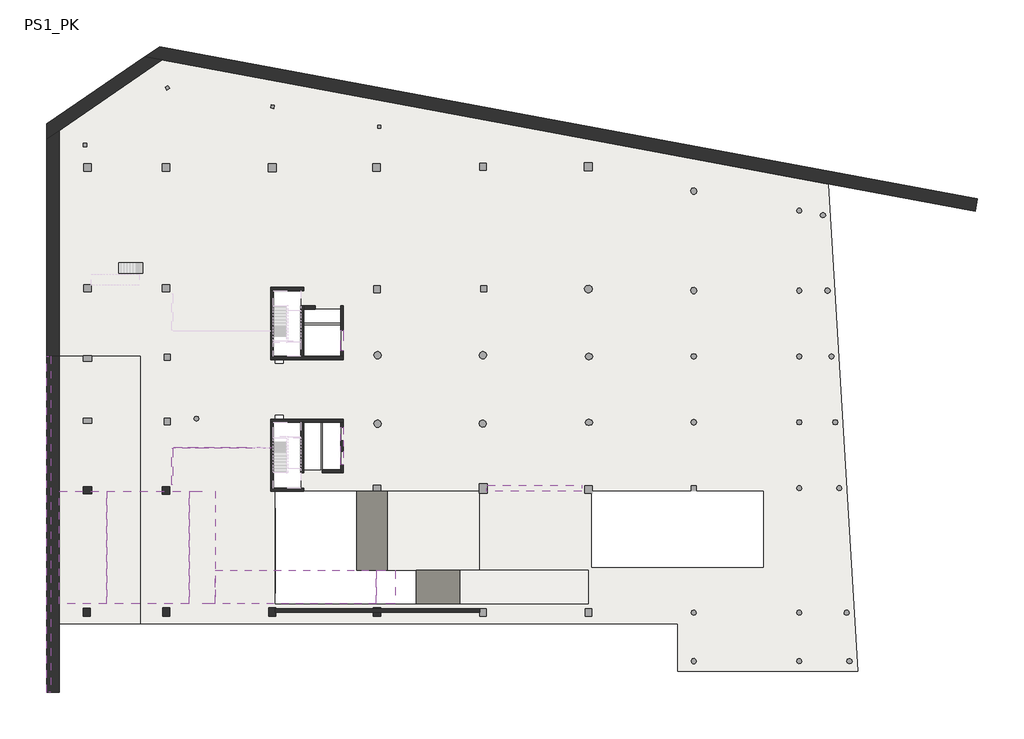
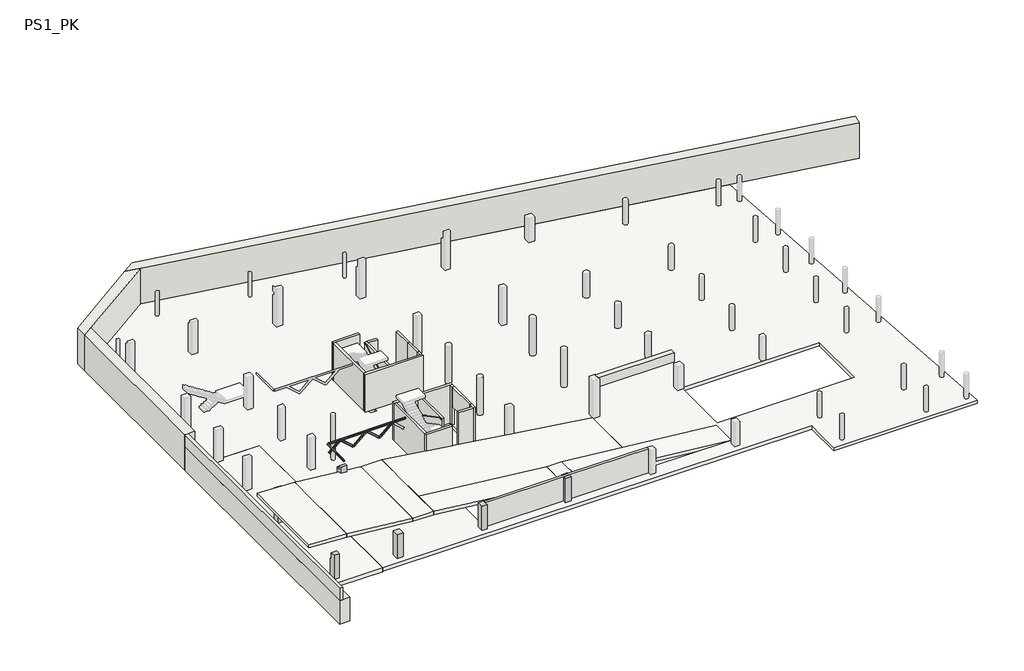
# One storey, part 1 of 5: 24 walls, 10 beams, 9 slabs, 6 columns.
"""IFC4 building model written with IfcOpenShell, lengths in millimetres."""

import ifcopenshell
import ifcopenshell.guid

model = None  # the IFC model being written
_history = None  # IfcOwnerHistory: only IFC2X3 demands one
_inside = {}  # id of a spatial element -> (the spatial element, [elements in it])
_under = {}  # id of a project, library or spatial element -> (it, [spatial elements below it])
_declared = {}  # id of a project -> (the project, [libraries it declares])
_typed = {}  # id of a type object -> (the type object, [elements of that type])
_made_of = {}  # id of a material, layer set ... -> (it, [elements and type objects made of it])


def new_model(schema):
    """Start an empty IFC model of exactly this schema.

    Asked for "IFC4X3", IfcOpenShell would pick the latest addendum, in which some entities
    have other attributes; the version numbers below select the first issue.
    IFC2X3 requires an IfcOwnerHistory on every rooted entity: one is made here for all.
    """
    global model, _history
    if schema == "IFC4X3":
        model = ifcopenshell.file(schema_version=(4, 3, 0, 0))
    else:
        model = ifcopenshell.file(schema=schema)
    _inside.clear()
    _under.clear()
    _declared.clear()
    _typed.clear()
    _made_of.clear()
    _history = None
    if model.schema == "IFC2X3":
        org = make("IfcOrganization", Name="unknown")
        user = make(
            "IfcPersonAndOrganization",
            ThePerson=make("IfcPerson", FamilyName="unknown"),
            TheOrganization=org,
        )
        app = make(
            "IfcApplication",
            ApplicationDeveloper=org,
            Version="unknown",
            ApplicationFullName="unknown",
            ApplicationIdentifier="unknown",
        )
        _history = make(
            "IfcOwnerHistory",
            OwningUser=user,
            OwningApplication=app,
            ChangeAction="ADDED",
            CreationDate=0,
        )
    return model


def make(cls, **values):
    """One entity of the class cls with the attributes given. An attribute that is None is left unset."""
    return model.create_entity(
        cls, **{name: value for name, value in values.items() if value is not None}
    )


def rooted(cls, **values):
    """An entity with a GlobalId (a new one), such as an element, a storey or a relation."""
    return make(cls, GlobalId=ifcopenshell.guid.new(), OwnerHistory=_history, **values)


def si_unit(unit_type, name, prefix=None):
    """IfcSIUnit, for example si_unit("LENGTHUNIT", "METRE", prefix="MILLI")."""
    return make("IfcSIUnit", UnitType=unit_type, Prefix=prefix, Name=name)


def assignment(units):
    """IfcUnitAssignment: the units of a project."""
    return None if units is None else make("IfcUnitAssignment", Units=units)


def point(xyz):
    """IfcCartesianPoint."""
    return None if xyz is None else make("IfcCartesianPoint", Coordinates=xyz)


def direction(xyz):
    """IfcDirection."""
    return None if xyz is None else make("IfcDirection", DirectionRatios=xyz)


def frame(location, z_axis=None, x_axis=None):
    """IfcAxis2Placement3D, a coordinate frame: its origin and axes. An axis left out is left unset."""
    return make(
        "IfcAxis2Placement3D",
        Location=point(location),
        Axis=direction(z_axis),
        RefDirection=direction(x_axis),
    )


def frame_2d(location, x_axis=None):
    """IfcAxis2Placement2D, a coordinate frame in the plane: its origin and x axis."""
    return make(
        "IfcAxis2Placement2D", Location=point(location), RefDirection=direction(x_axis)
    )


def origin():
    """The frame at (0, 0, 0) with its axes left unset."""
    return frame((0.0, 0.0, 0.0))


def place(relative_to, where):
    """IfcLocalPlacement: puts the frame where relative to a parent placement (None: the world)."""
    return make(
        "IfcLocalPlacement", PlacementRelTo=relative_to, RelativePlacement=where
    )


def context(
    kind, dimensions, precision=None, world=None, true_north=None, identifier=None
):
    """IfcGeometricRepresentationContext, for example the 3D "Model" context."""
    return make(
        "IfcGeometricRepresentationContext",
        ContextIdentifier=identifier,
        ContextType=kind,
        CoordinateSpaceDimension=dimensions,
        Precision=precision,
        WorldCoordinateSystem=world,
        TrueNorth=true_north,
    )


def project(units=None, contexts=None):
    """IfcProject with its units and contexts."""
    return rooted(
        "IfcProject",
        Name="project",
        RepresentationContexts=contexts,
        UnitsInContext=assignment(units),
    )


def spatial(cls, under=None, at=None, **own):
    """A site, building, storey or space (cls), placed at a placement, below another one or the project."""
    s = rooted(cls, ObjectPlacement=at, **own)
    if under is not None:
        _under.setdefault(under.id(), (under, []))[1].append(s)
    return s


def polyline(points):
    """IfcPolyline through the points."""
    return make("IfcPolyline", Points=[point(p) for p in points])


def circle_curve(where, radius):
    """IfcCircle in the frame where."""
    return make("IfcCircle", Position=where, Radius=radius)


def trimmed(basis, trim1, trim2, sense, master):
    """IfcTrimmedCurve: the piece of a basis curve between two trims."""
    return make(
        "IfcTrimmedCurve",
        BasisCurve=basis,
        Trim1=trim1,
        Trim2=trim2,
        SenseAgreement=sense,
        MasterRepresentation=master,
    )


def segment(curve, same_sense, transition):
    """IfcCompositeCurveSegment."""
    return make(
        "IfcCompositeCurveSegment",
        Transition=transition,
        SameSense=same_sense,
        ParentCurve=curve,
    )


def composite_curve(segments, self_intersect=None):
    """IfcCompositeCurve: segments joined end to end."""
    return make("IfcCompositeCurve", Segments=segments, SelfIntersect=self_intersect)


def outline(outer, holes=None, kind="AREA"):
    """IfcArbitraryClosedProfileDef: a profile drawn as a closed curve; with holes, ...WithVoids."""
    if holes is None:
        return make("IfcArbitraryClosedProfileDef", ProfileType=kind, OuterCurve=outer)
    return make(
        "IfcArbitraryProfileDefWithVoids",
        ProfileType=kind,
        OuterCurve=outer,
        InnerCurves=holes,
    )


def extrude(swept, where, along, depth):
    """IfcExtrudedAreaSolid: the profile swept, set in the frame where, extruded along a direction by depth."""
    return make(
        "IfcExtrudedAreaSolid",
        SweptArea=swept,
        Position=where,
        ExtrudedDirection=direction(along),
        Depth=depth,
    )


def faces_of(points, faces, orient=None, outer=None):
    """IfcFace entities. A face is a list of loops; a loop is a list of indices into points, from 0.

    orient and outer hold one flag for each loop. By default every Orientation is true, the
    first loop of a face is its IfcFaceOuterBound and the others are IfcFaceBound.
    """
    made = []
    for i, loops in enumerate(faces):
        bounds = []
        for j, loop in enumerate(loops):
            is_outer = j == 0 if outer is None else outer[i][j]
            bounds.append(
                make(
                    "IfcFaceOuterBound" if is_outer else "IfcFaceBound",
                    Bound=make("IfcPolyLoop", Polygon=[points[k] for k in loop]),
                    Orientation=True if orient is None else orient[i][j],
                )
            )
        made.append(make("IfcFace", Bounds=bounds))
    return made


def faceted_brep(points, faces, orient=None, outer=None, voids=None):
    """IfcFacetedBrep: a solid bounded by flat faces; with voids (closed shells), ...WithVoids."""
    shared = [point(p) for p in points]
    hull = make("IfcClosedShell", CfsFaces=faces_of(shared, faces, orient, outer))
    if voids is None:
        return make("IfcFacetedBrep", Outer=hull)
    return make(
        "IfcFacetedBrepWithVoids",
        Outer=hull,
        Voids=[
            make(cls, CfsFaces=faces_of(shared, fs, o, b)) for cls, fs, o, b in voids
        ],
    )


def shape(context_of_items, identifier, shape_type, items):
    """IfcShapeRepresentation: the items that make up one representation, for example the "Body"."""
    return make(
        "IfcShapeRepresentation",
        ContextOfItems=context_of_items,
        RepresentationIdentifier=identifier,
        RepresentationType=shape_type,
        Items=items,
    )


def source(mapping_origin, context_of_items, identifier, shape_type, items):
    """IfcRepresentationMap: a shape defined once, which mapped items show again and again."""
    return make(
        "IfcRepresentationMap",
        MappingOrigin=mapping_origin,
        MappedRepresentation=shape(context_of_items, identifier, shape_type, items),
    )


def transform(
    local_origin,
    x_axis=None,
    y_axis=None,
    z_axis=None,
    scale=None,
    scale2=None,
    scale3=None,
    uniform=True,
):
    """IfcCartesianTransformationOperator3D, or its non-uniform kind. x_axis, y_axis, z_axis: its Axis1, 2, 3."""
    if uniform:
        return make(
            "IfcCartesianTransformationOperator3D",
            Axis1=direction(x_axis),
            Axis2=direction(y_axis),
            LocalOrigin=point(local_origin),
            Scale=scale,
            Axis3=direction(z_axis),
        )
    return make(
        "IfcCartesianTransformationOperator3DnonUniform",
        Axis1=direction(x_axis),
        Axis2=direction(y_axis),
        LocalOrigin=point(local_origin),
        Scale=scale,
        Axis3=direction(z_axis),
        Scale2=scale2,
        Scale3=scale3,
    )


def mapped(mapping_source, mapping_target):
    """IfcMappedItem: shows the shape of a source again, moved by a transform."""
    return make(
        "IfcMappedItem", MappingSource=mapping_source, MappingTarget=mapping_target
    )


def made_of(thing, what):
    """Note that an element or type object is made of a material, layer set ...; save() writes the relation."""
    if what is not None:
        _made_of.setdefault(what.id(), (what, []))[1].append(thing)
    return thing


def element(
    cls,
    number,
    at=None,
    inside=None,
    cuts=None,
    type_object=None,
    material=None,
    context=None,
    identifier="Body",
    shape_type=None,
    held_by="IfcProductDefinitionShape",
    body=None,
    shapes=None,
    **own,
):
    """One element of the class cls, such as IfcWall. Its Tag is "e" and its number.

    at: its placement. inside: the storey or other place that contains it. cuts: it is an
    opening in that element (IfcRelVoidsElement). A single representation is given by context,
    identifier, shape_type and body (its items); several are given by shapes. held_by: the class
    of the entity that holds the representations. save() writes the other relations.
    """
    e = rooted(cls, Tag="e%d" % number, ObjectPlacement=at, **own)
    if body is not None:
        shapes = [shape(context, identifier, shape_type, body)]
    if shapes is not None:
        e.Representation = make(held_by, Representations=shapes)
    if inside is not None:
        _inside.setdefault(inside.id(), (inside, []))[1].append(e)
    if cuts is not None:
        rooted(
            "IfcRelVoidsElement", RelatingBuildingElement=cuts, RelatedOpeningElement=e
        )
    if type_object is not None:
        _typed.setdefault(type_object.id(), (type_object, []))[1].append(e)
    return made_of(e, material)


def aggregate(whole, parts):
    """IfcRelAggregates: a whole, such as a stair, and the parts it consists of."""
    return rooted("IfcRelAggregates", RelatingObject=whole, RelatedObjects=parts)


def save(model, path):
    """Write the relations noted so far, then the file.

    IfcRelAggregates (storeys below a building ...), IfcRelContainedInSpatialStructure (elements
    in a storey), IfcRelDefinesByType, IfcRelAssociatesMaterial and IfcRelDeclares: one each for
    every whole, place, type object, material and project.
    """
    for whole, parts in _under.values():
        aggregate(whole, parts)
    for where, things in _inside.values():
        rooted(
            "IfcRelContainedInSpatialStructure",
            RelatedElements=things,
            RelatingStructure=where,
        )
    for kind, things in _typed.values():
        rooted("IfcRelDefinesByType", RelatedObjects=things, RelatingType=kind)
    for what, things in _made_of.values():
        rooted("IfcRelAssociatesMaterial", RelatedObjects=things, RelatingMaterial=what)
    for by, libraries in _declared.values():
        rooted("IfcRelDeclares", RelatingContext=by, RelatedDefinitions=libraries)
    model.write(path)


def ub_universal_beams_ipe_160x82_7bbaf760(model_context):
    return source(origin(), model_context, "Body", "SweptSolid", [
        extrude(outline(composite_curve([segment(polyline([(-41.0, -69.8), (-11.9, -69.8)]), True, "CONTINUOUS"), segment(trimmed(circle_curve(frame_2d((-11.9, -60.9)), 8.9), [point((-11.9, -69.8))], [point((-3.0, -60.9))], True, "CARTESIAN"), True, "CONTINUOUS"), segment(polyline([(-3.0, -60.9), (-3.0, 60.9)]), True, "CONTINUOUS"), segment(trimmed(circle_curve(frame_2d((-11.9, 60.9)), 8.9), [point((-3.0, 60.9))], [point((-11.9, 69.8))], True, "CARTESIAN"), True, "CONTINUOUS"), segment(polyline([(-11.9, 69.8), (-41.0, 69.8), (-41.0, 80.0), (41.0, 80.0), (41.0, 69.8), (11.9, 69.8)]), True, "CONTINUOUS"), segment(trimmed(circle_curve(frame_2d((11.9, 60.9)), 8.9), [point((11.9, 69.8))], [point((3.0, 60.9))], True, "CARTESIAN"), True, "CONTINUOUS"), segment(polyline([(3.0, 60.9), (3.0, -60.9)]), True, "CONTINUOUS"), segment(trimmed(circle_curve(frame_2d((11.9, -60.9)), 8.9), [point((3.0, -60.9))], [point((11.9, -69.8))], True, "CARTESIAN"), True, "CONTINUOUS"), segment(polyline([(11.9, -69.8), (41.0, -69.8), (41.0, -80.0), (-41.0, -80.0), (-41.0, -69.8)]), True, "CONTINUOUS")], self_intersect=False)), frame((-1742.9, 0.0, 0.0), z_axis=(1.0, 0.0, 0.0), x_axis=(0.0, 1.0, 0.0)), (0.0, 0.0, 1.0), 3462.2),
    ])


def upn200x75_1c1293da(model_context):
    return source(origin(), model_context, "Body", "SweptSolid", [
        extrude(outline(composite_curve([segment(polyline([(-10.9, 100.0), (64.1, 100.0), (64.1, 99.0253247)]), True, "CONTINUOUS"), segment(trimmed(circle_curve(frame_2d((60.15, 99.0253247)), 3.95), [point((64.1, 99.0253247))], [point((60.7993773, 95.1290689))], False, "CARTESIAN"), True, "CONTINUOUS"), segment(polyline([(60.7993773, 95.1290689), (0.2512455, 85.0376935)]), True, "CONTINUOUS"), segment(trimmed(circle_curve(frame_2d((1.55, 77.2451819)), 7.9), [point((0.2512455, 85.0376935))], [point((-6.35, 77.2451819))], True, "CARTESIAN"), True, "CONTINUOUS"), segment(polyline([(-6.35, 77.2451819), (-6.35, -77.2451819)]), True, "CONTINUOUS"), segment(trimmed(circle_curve(frame_2d((1.55, -77.2451819)), 7.9), [point((-6.35, -77.2451819))], [point((0.2512455, -85.0376935))], True, "CARTESIAN"), True, "CONTINUOUS"), segment(polyline([(0.2512455, -85.0376935), (60.7993773, -95.1290689)]), True, "CONTINUOUS"), segment(trimmed(circle_curve(frame_2d((60.15, -99.0253247)), 3.95), [point((60.7993773, -95.1290689))], [point((64.1, -99.0253247))], False, "CARTESIAN"), True, "CONTINUOUS"), segment(polyline([(64.1, -99.0253247), (64.1, -100.0), (-10.9, -100.0), (-10.9, 100.0)]), True, "CONTINUOUS")], self_intersect=False)), frame((-1028.55, 0.0, 0.0), z_axis=(1.0, 0.0, 0.0), x_axis=(0.0, 1.0, 0.0)), (0.0, 0.0, 1.0), 2057.1),
    ])


def upn200x75_5a3f8982(model_context):
    return source(origin(), model_context, "Body", "SweptSolid", [
        extrude(outline(composite_curve([segment(polyline([(10.9, 100.0), (10.9, -100.0), (-64.1, -100.0), (-64.1, -99.0253247)]), True, "CONTINUOUS"), segment(trimmed(circle_curve(frame_2d((-60.15, -99.0253247)), 3.95), [point((-64.1, -99.0253247))], [point((-60.7993773, -95.1290689))], False, "CARTESIAN"), True, "CONTINUOUS"), segment(polyline([(-60.7993773, -95.1290689), (-0.2512455, -85.0376935)]), True, "CONTINUOUS"), segment(trimmed(circle_curve(frame_2d((-1.55, -77.2451819)), 7.9), [point((-0.2512455, -85.0376935))], [point((6.35, -77.2451819))], True, "CARTESIAN"), True, "CONTINUOUS"), segment(polyline([(6.35, -77.2451819), (6.35, 77.2451819)]), True, "CONTINUOUS"), segment(trimmed(circle_curve(frame_2d((-1.55, 77.2451819)), 7.9), [point((6.35, 77.2451819))], [point((-0.2512455, 85.0376935))], True, "CARTESIAN"), True, "CONTINUOUS"), segment(polyline([(-0.2512455, 85.0376935), (-60.7993773, 95.1290689)]), True, "CONTINUOUS"), segment(trimmed(circle_curve(frame_2d((-60.15, 99.0253247)), 3.95), [point((-60.7993773, 95.1290689))], [point((-64.1, 99.0253247))], False, "CARTESIAN"), True, "CONTINUOUS"), segment(polyline([(-64.1, 99.0253247), (-64.1, 100.0), (10.9, 100.0)]), True, "CONTINUOUS")], self_intersect=False)), frame((-1028.55, 0.0, 0.0), z_axis=(1.0, 0.0, 0.0), x_axis=(0.0, 1.0, 0.0)), (0.0, 0.0, 1.0), 2057.1),
    ])


def upn200x75_c14da5dc(model_context):
    return source(origin(), model_context, "Body", "SweptSolid", [
        extrude(outline(composite_curve([segment(polyline([(-10.9, 100.0), (64.1, 100.0), (64.1, 99.0253247)]), True, "CONTINUOUS"), segment(trimmed(circle_curve(frame_2d((60.15, 99.0253247)), 3.95), [point((64.1, 99.0253247))], [point((60.7993773, 95.1290689))], False, "CARTESIAN"), True, "CONTINUOUS"), segment(polyline([(60.7993773, 95.1290689), (0.2512455, 85.0376935)]), True, "CONTINUOUS"), segment(trimmed(circle_curve(frame_2d((1.55, 77.2451819)), 7.9), [point((0.2512455, 85.0376935))], [point((-6.35, 77.2451819))], True, "CARTESIAN"), True, "CONTINUOUS"), segment(polyline([(-6.35, 77.2451819), (-6.35, -77.2451819)]), True, "CONTINUOUS"), segment(trimmed(circle_curve(frame_2d((1.55, -77.2451819)), 7.9), [point((-6.35, -77.2451819))], [point((0.2512455, -85.0376935))], True, "CARTESIAN"), True, "CONTINUOUS"), segment(polyline([(0.2512455, -85.0376935), (60.7993773, -95.1290689)]), True, "CONTINUOUS"), segment(trimmed(circle_curve(frame_2d((60.15, -99.0253247)), 3.95), [point((60.7993773, -95.1290689))], [point((64.1, -99.0253247))], False, "CARTESIAN"), True, "CONTINUOUS"), segment(polyline([(64.1, -99.0253247), (64.1, -100.0), (-10.9, -100.0), (-10.9, 100.0)]), True, "CONTINUOUS")], self_intersect=False)), frame((-1009.55, 0.0, 0.0), z_axis=(1.0, 0.0, 0.0), x_axis=(0.0, 1.0, 0.0)), (0.0, 0.0, 1.0), 1793.1),
    ])


def upn200x75_1ffd0ced(model_context):
    return source(origin(), model_context, "Body", "SweptSolid", [
        extrude(outline(composite_curve([segment(polyline([(10.9, 100.0), (10.9, -100.0), (-64.1, -100.0), (-64.1, -99.0253247)]), True, "CONTINUOUS"), segment(trimmed(circle_curve(frame_2d((-60.15, -99.0253247)), 3.95), [point((-64.1, -99.0253247))], [point((-60.7993773, -95.1290689))], False, "CARTESIAN"), True, "CONTINUOUS"), segment(polyline([(-60.7993773, -95.1290689), (-0.2512455, -85.0376935)]), True, "CONTINUOUS"), segment(trimmed(circle_curve(frame_2d((-1.55, -77.2451819)), 7.9), [point((-0.2512455, -85.0376935))], [point((6.35, -77.2451819))], True, "CARTESIAN"), True, "CONTINUOUS"), segment(polyline([(6.35, -77.2451819), (6.35, 77.2451819)]), True, "CONTINUOUS"), segment(trimmed(circle_curve(frame_2d((-1.55, 77.2451819)), 7.9), [point((6.35, 77.2451819))], [point((-0.2512455, 85.0376935))], True, "CARTESIAN"), True, "CONTINUOUS"), segment(polyline([(-0.2512455, 85.0376935), (-60.7993773, 95.1290689)]), True, "CONTINUOUS"), segment(trimmed(circle_curve(frame_2d((-60.15, 99.0253247)), 3.95), [point((-60.7993773, 95.1290689))], [point((-64.1, 99.0253247))], False, "CARTESIAN"), True, "CONTINUOUS"), segment(polyline([(-64.1, 99.0253247), (-64.1, 100.0), (10.9, 100.0)]), True, "CONTINUOUS")], self_intersect=False)), frame((-4549.35, 0.0, 0.0), z_axis=(1.0, 0.0, 0.0), x_axis=(0.0, 1.0, 0.0)), (0.0, 0.0, 1.0), 9187.2),
    ])


model = new_model("IFC4")

# Units and contexts
model_context = context("Model", 3, world=origin())
ifc_project = project(units=[si_unit("LENGTHUNIT", "METRE", prefix="MILLI")], contexts=[model_context])

# Site, building, storey
site = spatial("IfcSite", under=ifc_project)
building = spatial("IfcBuilding", under=site)
storey = spatial("IfcBuildingStorey", under=building, Name="PS1_PK", Elevation=1850.0)

# Beams
placement = place(None, origin())
element("IfcBeam", 1, ObjectType="M_Concrete-Rectangular Beam : 600 x 800mm", at=placement, inside=storey, context=model_context, shape_type="SweptSolid", body=[
    extrude(outline(polyline([(-31415.3182582, -6785.0987504), (-30815.3182582, -6785.0995089), (-30815.3284346, -14835.0991411), (-31415.3284346, -14835.0983826), (-31415.3182582, -6785.0987504)])), frame((0.0, 0.0, 1050.0), z_axis=(0.0, 0.0, 1.0), x_axis=(1.0, 0.0, 0.0)), (0.0, 0.0, 1.0), 350.0),
])
element("IfcBeam", 2, ObjectType="M_Concrete-Rectangular Beam : 600 x 800mm", at=placement, inside=storey, context=model_context, shape_type="SweptSolid", body=[
    extrude(outline(polyline([(-23815.3033971, -6785.0987504), (-23215.3033971, -6785.0995089), (-23215.3135735, -14835.0991411), (-23815.3135735, -14835.0983826), (-23815.3033971, -6785.0987504)])), frame((0.0, 0.0, 1050.0), z_axis=(0.0, 0.0, 1.0), x_axis=(1.0, 0.0, 0.0)), (0.0, 0.0, 1.0), 400.0),
])
element("IfcBeam", 3, ObjectType="M_Concrete-Rectangular Beam : 600 x 800mm", at=placement, inside=storey, context=model_context, shape_type="SweptSolid", body=[
    extrude(outline(polyline([(-13815.2879142, -6785.0987504), (-13215.2879142, -6785.0995089), (-13215.2980906, -14835.0991411), (-13815.2980906, -14835.0983826), (-13815.2879142, -6785.0987504)])), frame((0.0, 0.0, 1050.0), z_axis=(0.0, 0.0, 1.0), x_axis=(1.0, 0.0, 0.0)), (0.0, 0.0, 1.0), 400.0),
])
ub_universal_beams_ipe_160x82_shape = ub_universal_beams_ipe_160x82_7bbaf760(model_context)
element("IfcBeam", 4, ObjectType="UB-Universal Beams : IPE 160x82", at=placement, inside=storey, context=model_context, shape_type="MappedRepresentation", body=[
    mapped(ub_universal_beams_ipe_160x82_shape, transform((-22991.1860553, -2817.6366893, 6250.0), x_axis=(0.0, 1.0, 0.0), y_axis=(-1.0, 0.0, 0.0), z_axis=(0.0, 0.0, 1.0))),
])
upn200x75_shape = upn200x75_1c1293da(model_context)
element("IfcBeam", 5, ObjectType="M_MC Shapes : UPN200x75", at=placement, inside=storey, context=model_context, shape_type="MappedRepresentation", body=[
    mapped(upn200x75_shape, transform((-16015.1068918, -1021.4872814, 5556.0464738), x_axis=(-0.7536675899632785, -9.524179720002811e-09, -0.6572557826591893), y_axis=(1.2637109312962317e-08, -1.0, 0.0), z_axis=(-0.6572557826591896, -8.305813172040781e-09, 0.7536675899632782))),
])
element("IfcBeam", 6, ObjectType="M_MC Shapes : UPN200x75", at=placement, inside=storey, context=model_context, shape_type="MappedRepresentation", body=[
    mapped(upn200x75_shape, transform((-19115.9662663, -1021.4872814, 5556.0464738), x_axis=(-0.753667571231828, -9.518466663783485e-09, -0.657255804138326), y_axis=(1.2629529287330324e-08, -1.0, 0.0), z_axis=(-0.6572558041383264, -8.300831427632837e-09, 0.7536675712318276))),
])
upn200x75_2_shape = upn200x75_5a3f8982(model_context)
element("IfcBeam", 7, ObjectType="M_MC Shapes : UPN200x75", at=placement, inside=storey, context=model_context, shape_type="MappedRepresentation", body=[
    mapped(upn200x75_2_shape, transform((-17565.5365103, -1021.4872813, 5556.0464738), x_axis=(0.7536676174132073, -9.379180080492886e-09, -0.6572557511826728), y_axis=(1.2444716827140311e-08, 1.0, 0.0), z_axis=(0.6572557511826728, -8.179361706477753e-09, 0.7536676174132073))),
])
element("IfcBeam", 8, ObjectType="M_MC Shapes : UPN200x75", at=placement, inside=storey, context=model_context, shape_type="MappedRepresentation", body=[
    mapped(upn200x75_2_shape, transform((-20666.3958102, -1021.4872813, 5556.0464738), x_axis=(0.753667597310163, -9.373056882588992e-09, -0.6572557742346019), y_axis=(1.2436592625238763e-08, 0.9999999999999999, 0.0), z_axis=(0.6572557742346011, -8.174022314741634e-09, 0.7536675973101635))),
])
upn200x75_3_shape = upn200x75_c14da5dc(model_context)
element("IfcBeam", 9, ObjectType="M_MC Shapes : UPN200x75", at=placement, inside=storey, context=model_context, shape_type="MappedRepresentation", body=[
    mapped(upn200x75_3_shape, transform((-22191.3959532, -1021.4872826, 5556.0464738), x_axis=(-0.7426831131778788, -1.1791235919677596e-08, -0.6696430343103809), y_axis=(1.5876536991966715e-08, -1.0, 0.0), z_axis=(-0.6696430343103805, -1.0631612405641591e-08, 0.7426831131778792))),
])
upn200x75_4_shape = upn200x75_1ffd0ced(model_context)
element("IfcBeam", 10, ObjectType="M_MC Shapes : UPN200x75", at=placement, inside=storey, context=model_context, shape_type="MappedRepresentation", body=[
    mapped(upn200x75_4_shape, transform((-18278.2394234, -1021.487191, 6230.0), x_axis=(0.9999999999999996, -3.175673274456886e-08, 0.0), y_axis=(3.175673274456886e-08, 0.9999999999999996, 0.0), z_axis=(0.0, 0.0, 1.0))),
])

# Columns
element("IfcColumn", 11, ObjectType="Concrete-Rectangular-Column : Pilar_Rectangular-Formigo-700x800", at=placement, inside=storey, context=model_context, shape_type="SweptSolid", body=[
    extrude(outline(polyline([(-23215.3184118, -16235.1033928), (-23215.3184105, -17035.1033928), (-23915.3184105, -17035.1033939), (-23915.3184118, -16235.1033939), (-23215.3184118, -16235.1033928)])), frame((0.0, 0.0, 1850.0), z_axis=(0.0, 0.0, 1.0), x_axis=(1.0, 0.0, 0.0)), (0.0, 0.0, 1.0), 3030.0),
])
element("IfcColumn", 12, ObjectType="Concrete-Rectangular-Column : Pilar_Rectangular-Formigo-650x800", at=placement, inside=storey, context=model_context, shape_type="Brep", body=[
    faceted_brep([(-13190.293055, -17035.1033987, 1850.0), (-13840.293055, -17035.1033975, 1850.0), (-13840.2930535, -16235.1033975, 1850.0), (-13190.2930535, -16235.1033987, 1850.0), (-13190.2930537, -16334.9031429, 1850.0), (-13215.2930536, -16334.9031429, 1850.0), (-13215.2930536, -16634.9031429, 1850.0), (-13190.2930542, -16634.9031429, 1850.0), (-13190.293055, -17035.1033987, 4880.0), (-13190.2930542, -16634.903198, 4880.0), (-13840.293055, -17035.1033975, 4880.0), (-13840.2930535, -16235.1033975, 4880.0), (-13190.2930535, -16235.1033987, 4880.0), (-13215.2930536, -16634.9031429, 4880.0), (-13215.2930536, -16334.9031429, 4880.0), (-13190.2930537, -16334.9031429, 4880.0)], [[[0, 1, 2, 3, 4, 5, 6, 7]], [[8, 0, 7, 9]], [[1, 0, 8, 10]], [[2, 1, 10, 11]], [[3, 2, 11, 12]], [[10, 8, 9, 13, 14, 15, 12, 11]], [[6, 13, 9, 7]], [[5, 14, 13, 6]], [[14, 5, 4, 15]], [[3, 12, 15, 4]]]),
])
element("IfcColumn", 13, ObjectType="Concrete-Rectangular-Column : Pilar_Rectangular-Formigo-650x800", at=placement, inside=storey, context=model_context, shape_type="Brep", body=[
    faceted_brep([(-31415.2980588, -4760.5873414, 1850.0), (-30615.2980588, -4760.5873414, 1850.0), (-30615.2980588, -5410.5873414, 1850.0), (-31415.2980588, -5410.5873414, 1850.0), (-31415.2980588, -4760.5873414, 5930.0), (-30615.2980588, -4760.5873414, 5930.0), (-30615.2980588, -4885.1039321, 5930.0), (-30615.2980588, -5185.1039321, 5930.0), (-30615.2980588, -5410.5873414, 5930.0), (-31415.2980588, -5410.5873414, 5930.0)], [[[0, 1, 2, 3]], [[4, 5, 1, 0]], [[5, 6, 7, 8, 2, 1]], [[8, 9, 3, 2]], [[9, 4, 0, 3]], [[4, 9, 8, 7, 6, 5]]]),
])
element("IfcColumn", 14, ObjectType="Concrete-Rectangular-Column : Pilar_Rectangular-Formigo-700x700", at=placement, inside=storey, context=model_context, shape_type="Brep", body=[
    faceted_brep([(-23941.1835957, -5460.5873525, 1850.0), (-23941.1835957, -4760.5873525, 1850.0), (-23241.1835957, -4760.5873525, 1850.0), (-23241.1835957, -5460.5873525, 1850.0), (-23941.1835957, -5460.5873525, 6330.0), (-23941.1835957, -5185.0959668, 6330.0), (-23941.1835957, -5185.0959668, 5930.0), (-23941.1835957, -4885.1039321, 5930.0), (-23941.1835957, -4760.5873525, 5930.0), (-23241.1835957, -4760.5873525, 5930.0), (-23241.1835957, -5185.0959668, 5930.0), (-23241.1835957, -5185.0959668, 6330.0), (-23241.1835957, -5460.5873525, 6330.0)], [[[0, 1, 2, 3]], [[1, 0, 4, 5, 6, 7, 8]], [[2, 1, 8, 9]], [[3, 2, 9, 10, 11, 12]], [[0, 3, 12, 4]], [[4, 12, 11, 5]], [[6, 10, 9, 8, 7]], [[10, 6, 5, 11]]]),
])
element("IfcColumn", 15, ObjectType="Concrete-Rectangular-Column : Pilar_Rectangular-Formigo-700x800", at=placement, inside=storey, context=model_context, shape_type="SweptSolid", body=[
    extrude(outline(polyline([(-3915.1540247, -16235.1056095), (-3215.1540247, -16235.1056095), (-3215.1540247, -16334.9031429), (-3915.1540247, -16334.9031429), (-3915.1540247, -16235.1056095)])), frame((0.0, 0.0, 1850.0), z_axis=(0.0, 0.0, 1.0), x_axis=(1.0, 0.0, 0.0)), (0.0, 0.0, 1.0), 3030.0),
    extrude(outline(polyline([(-3215.1540247, -17035.1056095), (-3915.1540247, -17035.1056095), (-3915.1540247, -16634.9031429), (-3215.1540247, -16634.9031429), (-3215.1540247, -17035.1056095)])), frame((0.0, 0.0, 1850.0), z_axis=(0.0, 0.0, 1.0), x_axis=(1.0, 0.0, 0.0)), (0.0, 0.0, 1.0), 3030.0),
])
element("IfcColumn", 16, ObjectType="Concrete-Rectangular-Column : Pilar_Rectangular-Formigo-650x750", at=placement, inside=storey, context=model_context, shape_type="Brep", body=[
    faceted_brep([(-30765.3184165, -16285.1033928, 1850.0), (-30765.3184165, -17035.1033928, 1850.0), (-31415.3184165, -17035.1033928, 1850.0), (-31415.3184165, -16285.1033928, 1850.0), (-30765.3184165, -16285.1033928, 4050.0), (-30765.3184165, -16435.5440663, 4050.0), (-30765.3184165, -16435.5440663, 4880.0), (-30765.3184165, -17035.1033928, 4880.0), (-31415.3184165, -17035.1033928, 4880.0), (-31415.3184165, -16435.557227, 4880.0), (-31415.3184165, -16435.557227, 4050.0), (-31415.3184165, -16285.1033928, 4050.0)], [[[0, 1, 2, 3]], [[1, 0, 4, 5, 6, 7]], [[2, 1, 7, 8]], [[3, 2, 8, 9, 10, 11]], [[0, 3, 11, 4]], [[8, 7, 6, 9]], [[5, 10, 9, 6]], [[10, 5, 4, 11]]]),
])

# Slabs
element("IfcSlab", 17, ObjectType="Forjat_Llosa-Formigo-400", at=placement, inside=storey, context=model_context, shape_type="Brep", body=[
    faceted_brep([(-23930.3270635, 35743.361696, 1450.0), (39264.3843441, 23967.0549217, 1450.0), (42020.1412186, -22244.215902, 1450.0), (24944.4016946, -22244.1958056, 1450.0), (24944.4019396, -17733.5176819, 1450.0), (-26046.9477827, -17732.2667871, 1450.0), (-26046.9153188, 7614.8960687, 1450.0), (-30615.2955819, 7614.8960687, 1450.0), (-31415.2955819, 7614.8960687, 1450.0), (-33717.5141758, 7614.8960687, 1450.0), (-33717.5141758, 29038.6998052, 1450.0), (16784.7044979, -5185.1011395, 1450.0), (16784.7044979, -12385.1011394, 1450.0), (33084.6783563, -12385.1011394, 1450.0), (33084.6783563, -5185.1011395, 1450.0), (-13215.2930923, -5185.1039323, 1450.0), (-13215.2930974, -15835.1021903, 1450.0), (6132.5357165, -15835.1021976, 1450.0), (6732.5357165, -15835.1021978, 1450.0), (16134.6783437, -15835.1022014, 1450.0), (16134.6784935, -12685.103435, 1450.0), (6732.5396986, -12685.103435, 1450.0), (6132.5369795, -12685.103435, 1450.0), (6132.5369844, -5185.1039323, 1450.0), (-10790.2146087, 13864.8960677, 1450.0), (-13390.3216429, 13864.8960677, 1450.0), (-13390.3216429, 7614.8960673, 1450.0), (-10790.2146087, 7614.8960673, 1450.0), (-7015.3216444, 10594.8839421, 1450.0), (-10540.2146087, 10594.8839421, 1450.0), (-10540.2146087, 7614.8960673, 1450.0), (-7015.3216444, 7614.8960673, 1450.0), (-7015.3215889, 12114.8934277, 1450.0), (-10540.2146087, 12114.8934277, 1450.0), (-10540.2146087, 10794.8973525, 1450.0), (-7015.3215889, 10794.8973525, 1450.0), (-10790.2146087, -4885.1039312, 1450.0), (-10790.2146087, 1364.8960692, 1450.0), (-13390.3216429, 1364.8960692, 1450.0), (-13390.3216429, -4885.1039312, 1450.0), (-8915.3273673, -3135.1012772, 1450.0), (-8915.3273673, 1364.8960692, 1450.0), (-10540.2146087, 1364.8960692, 1450.0), (-10540.2146087, -3135.1012772, 1450.0), (-7015.32737, -3135.1012912, 1450.0), (-7015.32737, 1364.8960692, 1450.0), (-8715.3273692, 1364.8960692, 1450.0), (-8715.3273692, -3135.1012912, 1450.0), (-12465.3183669, 2014.8972615, 1450.0), (-13215.3183695, 2014.8972615, 1450.0), (-13215.3183695, 1664.8972602, 1450.0), (-12465.3183669, 1664.8972602, 1450.0), (-12465.3183689, 7314.889142, 1450.0), (-13215.3183665, 7314.889142, 1450.0), (-13215.3183665, 6964.889144, 1450.0), (-12465.3183689, 6964.889144, 1450.0), (39264.3843441, 23967.0549217, 1850.0), (-23930.3270635, 35743.361696, 1850.0), (-33717.5141758, 29038.6998052, 1850.0), (-33717.5141758, 7614.8960687, 1850.0), (-26046.9153188, 7614.8960687, 1850.0), (-26046.9477827, -17732.2667871, 1850.0), (24944.4019396, -17733.5176819, 1850.0), (24944.4016946, -22244.1958056, 1850.0), (42020.1412186, -22244.215902, 1850.0), (16784.7044979, -12385.1011394, 1850.0), (16784.7044979, -5185.1011395, 1850.0), (33084.6783563, -5185.1011395, 1850.0), (33084.6783563, -12385.1011394, 1850.0), (-13215.2930974, -15835.1021903, 1850.0), (-13215.2930923, -5185.1039323, 1850.0), (-3915.3209111, -5185.1039323, 1850.0), (-3215.3209111, -5185.1039323, 1850.0), (6132.5369844, -5185.1039323, 1850.0), (6132.5369795, -12685.103435, 1850.0), (6732.5396986, -12685.103435, 1850.0), (16134.6784935, -12685.103435, 1850.0), (16134.6783437, -15835.1022014, 1850.0), (6732.5357165, -15835.1021978, 1850.0), (6132.5357165, -15835.1021976, 1850.0), (-13390.3216429, 13864.8960677, 1850.0), (-10790.2146087, 13864.8960677, 1850.0), (-10790.2146087, 7614.8960673, 1850.0), (-13390.3216429, 7614.8960673, 1850.0), (-10540.2146087, 10594.8839421, 1850.0), (-7015.3216444, 10594.8839421, 1850.0), (-7015.3216444, 7614.8960673, 1850.0), (-10540.2146087, 7614.8960673, 1850.0), (-10540.2146087, 12114.8934277, 1850.0), (-7015.3215889, 12114.8934277, 1850.0), (-7015.3215889, 10794.8973525, 1850.0), (-10540.2146087, 10794.8973525, 1850.0), (-10790.2146087, 1364.8960692, 1850.0), (-10790.2146087, -4885.1039312, 1850.0), (-13390.3216429, -4885.1039312, 1850.0), (-13390.3216429, 1364.8960692, 1850.0), (-8915.3273673, 1364.8960692, 1850.0), (-8915.3273673, -3135.1012772, 1850.0), (-10540.2146087, -3135.1012772, 1850.0), (-10540.2146087, 1364.8960692, 1850.0), (-7015.32737, 1364.8960692, 1850.0), (-7015.32737, -3135.1012912, 1850.0), (-8715.3273692, -3135.1012912, 1850.0), (-8715.3273692, 1364.8960692, 1850.0), (-13215.3183695, 2014.8972615, 1850.0), (-12465.3183669, 2014.8972615, 1850.0), (-12465.3183669, 1664.8972602, 1850.0), (-13215.3183695, 1664.8972602, 1850.0), (-13215.3183665, 7314.889142, 1850.0), (-12465.3183689, 7314.889142, 1850.0), (-12465.3183689, 6964.889144, 1850.0), (-13215.3183665, 6964.889144, 1850.0)], [[[0, 1, 2, 3, 4, 5, 6, 7, 8, 9, 10], [11, 12, 13, 14], [15, 16, 17, 18, 19, 20, 21, 22, 23], [24, 25, 26, 27], [28, 29, 30, 31], [32, 33, 34, 35], [36, 37, 38, 39], [40, 41, 42, 43], [44, 45, 46, 47], [48, 49, 50, 51], [52, 53, 54, 55]], [[56, 57, 58, 59, 60, 61, 62, 63, 64], [65, 66, 67, 68], [69, 70, 71, 72, 73, 74, 75, 76, 77, 78, 79], [80, 81, 82, 83], [84, 85, 86, 87], [88, 89, 90, 91], [92, 93, 94, 95], [96, 97, 98, 99], [100, 101, 102, 103], [104, 105, 106, 107], [108, 109, 110, 111]], [[1, 0, 57, 56]], [[2, 1, 56, 64]], [[3, 2, 64, 63]], [[4, 3, 63, 62]], [[5, 4, 62, 61]], [[10, 9, 59, 58]], [[0, 10, 58, 57]], [[12, 11, 66, 65]], [[13, 12, 65, 68]], [[14, 13, 68, 67]], [[11, 14, 67, 66]], [[16, 15, 70, 69]], [[19, 18, 17, 16, 69, 79, 78, 77]], [[23, 22, 74, 73]], [[15, 23, 73, 72, 71, 70]], [[6, 5, 61, 60]], [[9, 8, 7, 6, 60, 59]], [[24, 81, 80, 25]], [[25, 80, 83, 26]], [[26, 83, 82, 27]], [[81, 24, 27, 82]], [[28, 85, 84, 29]], [[29, 84, 87, 30]], [[30, 87, 86, 31]], [[85, 28, 31, 86]], [[32, 89, 88, 33]], [[33, 88, 91, 34]], [[34, 91, 90, 35]], [[89, 32, 35, 90]], [[36, 93, 92, 37]], [[37, 92, 95, 38]], [[38, 95, 94, 39]], [[93, 36, 39, 94]], [[40, 97, 96, 41]], [[41, 96, 99, 42]], [[42, 99, 98, 43]], [[97, 40, 43, 98]], [[44, 101, 100, 45]], [[45, 100, 103, 46]], [[46, 103, 102, 47]], [[101, 44, 47, 102]], [[48, 105, 104, 49]], [[49, 104, 107, 50]], [[50, 107, 106, 51]], [[105, 48, 51, 106]], [[52, 109, 108, 53]], [[53, 108, 111, 54]], [[54, 111, 110, 55]], [[109, 52, 55, 110]], [[20, 19, 77, 76]], [[22, 21, 20, 76, 75, 74]]]),
])
element("IfcSlab", 18, ObjectType="Forjat_Llosa-Formigo-400", at=placement, inside=storey, context=model_context, shape_type="Brep", body=[
    faceted_brep([(6132.5369795, -12685.1034498, 1446.1953926), (-18894.2962732, -12685.103435, 4906.1953924), (-18894.2962709, -5185.1039323, 4906.1953921), (6132.5369844, -5185.1039323, 1446.1953919), (6132.5369795, -12685.1034498, 1850.0000004), (6132.5369844, -5185.1039323, 1849.9999997), (-18894.2962709, -5185.1039323, 5309.9999999), (-18894.2962732, -12685.103435, 5310.0000002)], [[[0, 1, 2, 3]], [[4, 5, 6, 7]], [[1, 0, 4, 7]], [[2, 1, 7, 6]], [[3, 2, 6, 5]], [[0, 3, 5, 4]]]),
])
element("IfcSlab", 19, ObjectType="Forjat_Llosa-Formigo-400", at=placement, inside=storey, context=model_context, shape_type="SweptSolid", body=[
    extrude(outline(polyline([(-18894.2962746, -5185.1039323), (-18894.2962746, -15835.1021856), (-21387.0087546, -15835.1021856), (-21387.0087546, -5185.1039323), (-18894.2962746, -5185.1039323)])), frame((0.0, 0.0, 4910.0), z_axis=(0.0, 0.0, 1.0), x_axis=(1.0, 0.0, 0.0)), (0.0, 0.0, 1.0), 400.0),
])
element("IfcSlab", 20, ObjectType="Forjat_Llosa-Formigo-400", at=placement, inside=storey, context=model_context, shape_type="SweptSolid", body=[
    extrude(outline(polyline([(5691.1240513, -29218.2097308), (4908.0049752, -21387.0189694), (5310.0, -21387.0189694), (6093.1190761, -29218.2097308), (5691.1240513, -29218.2097308)])), frame((0.0, -15835.1021872, 0.0), z_axis=(0.0, 1.0, 0.0), x_axis=(0.0, 0.0, 1.0)), (0.0, 0.0, 1.0), 10649.998255),
])
element("IfcSlab", 21, ObjectType="Forjat_Llosa-Formigo-400", at=placement, inside=storey, context=model_context, shape_type="Brep", body=[
    faceted_brep([(-29217.9801348, -5185.1033979, 5692.4508837), (-29217.7771821, -15835.5127329, 5692.440194), (-33717.5141758, -15835.6038397, 5929.4455389), (-33717.5141758, -5185.103396, 5929.4455389), (-29217.9801348, -5185.1033979, 6093.0053449), (-33717.5141758, -5185.103396, 6330.0), (-33717.5141758, -15835.6038397, 6330.0), (-29217.7771821, -15835.5127329, 6092.9946551)], [[[0, 1, 2, 3]], [[4, 5, 6, 7]], [[1, 0, 4, 7]], [[2, 1, 7, 6]], [[3, 2, 6, 5]], [[0, 3, 5, 4]]]),
])
element("IfcSlab", 22, ObjectType="Forjat_Llosa-Formigo-450", at=placement, inside=storey, context=model_context, shape_type="Brep", body=[
    faceted_brep([(-33717.5141758, -17732.0786165, 1400.0), (-33717.5141758, 7614.8960687, 1400.0), (-31415.2955819, 7614.8960687, 1400.0), (-30615.2955819, 7614.8960687, 1400.0), (-26046.9153188, 7614.8960687, 1400.0), (-26046.9477827, -17732.2667871, 1400.0), (-33717.5141758, -17732.0786165, 1850.0), (-26046.9477827, -17732.2667871, 1850.0), (-26046.9153188, 7614.8960687, 1850.0), (-33717.5141758, 7614.8960687, 1850.0), (-26046.9477827, -17732.2667871, 1450.0), (-33717.5141758, 7614.8960687, 1450.0), (-26046.9153188, 7614.8960687, 1450.0)], [[[0, 1, 2, 3, 4, 5]], [[6, 7, 8, 9]], [[0, 5, 10, 7, 6]], [[1, 0, 6, 9, 11]], [[4, 3, 2, 1, 11, 9, 8, 12]], [[5, 4, 12, 8, 7, 10]]]),
])
element("IfcSlab", 23, ObjectType="Forjat_Llosa-Formigo-400", at=placement, inside=storey, context=model_context, shape_type="SweptSolid", body=[
    extrude(outline(polyline([(-1840.7876105, -12685.103435), (-1840.7876105, -15835.1021946), (-3640.7876105, -15835.1021939), (-3640.7876105, -12685.103435), (-1840.7876105, -12685.103435)])), frame((0.0, 0.0, 3250.0), z_axis=(0.0, 0.0, 1.0), x_axis=(1.0, 0.0, 0.0)), (0.0, 0.0, 1.0), 400.0),
])
element("IfcSlab", 24, ObjectType="Forjat_Llosa-Formigo-400", at=placement, inside=storey, context=model_context, shape_type="Brep", body=[
    faceted_brep([(16484.70689, -15835.1022065, 1448.0750483), (-1840.7876105, -15835.1021957, 3248.0750482), (-1840.7876095, -12685.103435, 3248.0750482), (16484.7068921, -12685.103435, 1448.0750481), (16484.70689, -15835.1022065, 1850.0000001), (16484.7068921, -12685.103435, 1849.9999999), (-1840.7876095, -12685.103435, 3650.0), (-1840.7876105, -15835.1021957, 3650.0000001)], [[[0, 1, 2, 3]], [[4, 5, 6, 7]], [[1, 0, 4, 7]], [[2, 1, 7, 6]], [[3, 2, 6, 5]], [[0, 3, 5, 4]]]),
])
element("IfcSlab", 25, ObjectType="Forjat_Llosa-Formigo-400", at=placement, inside=storey, context=model_context, shape_type="Brep", body=[
    faceted_brep([(-3640.7876105, -15835.1021946, 3247.6382907), (-18894.2962741, -15835.1021856, 4907.6382907), (-18894.2962732, -12685.103435, 4907.6382906), (-3640.7876084, -12685.103435, 3247.6382905), (-3640.7876105, -15835.1021946, 3650.0000001), (-3640.7876084, -12685.103435, 3649.9999999), (-18894.2962732, -12685.103435, 5310.0), (-18894.2962741, -15835.1021856, 5310.0000001)], [[[0, 1, 2, 3]], [[4, 5, 6, 7]], [[1, 0, 4, 7]], [[2, 1, 7, 6]], [[3, 2, 6, 5]], [[0, 3, 5, 4]]]),
])

# Walls
element("IfcWall", 26, ObjectType="0_Muro Contención_1200", at=placement, inside=storey, context=model_context, shape_type="Brep", body=[
    faceted_brep([(-25599.5706602, 36054.4245087, 1850.0), (-23930.3270635, 35743.361696, 1850.0), (53175.6123587, 21374.703678, 1850.0), (53175.6123587, 21374.703678, 6330.0), (-23930.3270635, 35743.361696, 6330.0), (-25599.5706602, 36054.4245087, 6330.0), (-24198.7607616, 37014.0420818, 1850.0), (-24198.7607616, 37014.0420818, 6330.0), (53395.447394, 22554.3953993, 6330.0), (53395.447394, 22554.3953993, 1850.0)], [[[0, 1, 2, 3, 4, 5]], [[6, 7, 8, 9]], [[2, 1, 0, 6, 9]], [[3, 2, 9, 8]], [[5, 4, 3, 8, 7]], [[0, 5, 7, 6]]]),
])
element("IfcWall", 27, ObjectType="0_Muro Contención_1200", at=placement, inside=storey, context=model_context, shape_type="Brep", body=[
    faceted_brep([(-34917.5141758, 28216.6460137, 1850.0), (-33717.5141758, 29038.6998048, 1850.0), (-23930.3270635, 35743.361696, 1850.0), (-23930.3270635, 35743.361696, 6330.0), (-33717.5141758, 29038.6998048, 6330.0), (-34917.5141758, 28216.6460137, 6330.0), (-34917.5141758, 29671.2155155, 1850.0), (-34917.5141758, 29671.2155155, 6330.0), (-25599.5706602, 36054.4245087, 6330.0), (-25599.5706602, 36054.4245087, 1850.0)], [[[0, 1, 2, 3, 4, 5]], [[6, 7, 8, 9]], [[2, 1, 0, 6, 9]], [[5, 4, 3, 8, 7]], [[0, 5, 7, 6]], [[3, 2, 9, 8]]]),
])
element("IfcWall", 28, ObjectType="0_Muro Contención_1200", at=placement, inside=storey, context=model_context, shape_type="Brep", body=[
    faceted_brep([(-34917.5141758, 28216.6460137, 1850.0), (-34917.5141758, 7614.8960687, 1850.0), (-34917.5141758, 7614.8960687, 4780.0), (-34917.5141758, 7614.8960687, 6330.0), (-34917.5141758, 28216.6460137, 6330.0), (-33717.5141758, 29038.6998048, 1850.0), (-33717.5141758, 29038.6998048, 6330.0), (-33717.5141758, 7614.8960687, 6330.0), (-33717.5141758, 7614.8960687, 4780.0), (-33717.5141758, 7614.8960687, 1850.0)], [[[0, 1, 2, 3, 4]], [[5, 6, 7, 8, 9]], [[1, 0, 5, 9]], [[3, 2, 1, 9, 8, 7]], [[4, 3, 7, 6]], [[0, 4, 6, 5]]]),
])
element("IfcWall", 29, ObjectType="0_Muro Contención_1200", at=placement, inside=storey, context=model_context, shape_type="SweptSolid", body=[
    extrude(outline(polyline([(-34917.5141758, -24244.1952686), (-34917.5141758, 7614.8960687), (-33717.5141758, 7614.8960687), (-33717.5141758, -24244.1952686), (-34917.5141758, -24244.1952686)])), frame((0.0, 0.0, 1850.0), z_axis=(0.0, 0.0, 1.0), x_axis=(1.0, 0.0, 0.0)), (0.0, 0.0, 1.0), 2930.0),
])
element("IfcWall", 30, ObjectType="0_Muro Concreto_250", at=placement, inside=storey, context=model_context, shape_type="SweptSolid", body=[
    extrude(outline(polyline([(-13640.3216429, 7614.8960673), (-13640.3216429, 13864.8960687), (-13390.3216429, 13864.8960687), (-13390.3216429, 7614.8960673), (-13640.3216429, 7614.8960673)])), frame((0.0, 0.0, 1850.0), z_axis=(0.0, 0.0, 1.0), x_axis=(1.0, 0.0, 0.0)), (0.0, 0.0, 1.0), 4750.0),
])
element("IfcWall", 31, ObjectType="0_Muro Concreto_250", at=placement, inside=storey, context=model_context, shape_type="Brep", body=[
    faceted_brep([(-10790.2146087, 12414.8934136, 1850.0), (-10790.2146087, 7614.8960673, 1850.0), (-10790.2146087, 7614.8960673, 6600.0), (-10790.2146087, 12414.8934136, 6600.0), (-10540.2146087, 12414.8934136, 1850.0), (-10540.2146087, 12414.8934136, 6600.0), (-10540.2146087, 12114.8934136, 6600.0), (-10540.2146087, 7614.8960673, 6600.0), (-10540.2146087, 7614.8960673, 1850.0), (-10540.2146087, 12114.8934136, 1850.0)], [[[0, 1, 2, 3]], [[4, 5, 6, 7, 8, 9]], [[1, 0, 4, 9, 8]], [[3, 2, 7, 6, 5]], [[0, 3, 5, 4]], [[2, 1, 8, 7]]]),
])
element("IfcWall", 32, ObjectType="0_Muro Concreto_250", at=placement, inside=storey, context=model_context, shape_type="SweptSolid", body=[
    extrude(outline(polyline([(-13390.3216429, 1364.8960692), (-13390.3216429, -4885.1039323), (-13640.3216429, -4885.1039323), (-13640.3216429, 1364.8960692), (-13390.3216429, 1364.8960692)])), frame((0.0, 0.0, 1850.0), z_axis=(0.0, 0.0, 1.0), x_axis=(1.0, 0.0, 0.0)), (0.0, 0.0, 1.0), 4750.0),
])
element("IfcWall", 33, ObjectType="0_Muro Concreto_250", at=placement, inside=storey, context=model_context, shape_type="SweptSolid", body=[
    extrude(outline(polyline([(-10540.2146087, 1364.8960692), (-10540.2146087, -3435.1012772), (-10790.2146087, -3435.1012772), (-10790.2146087, 1364.8960692), (-10540.2146087, 1364.8960692)])), frame((0.0, 0.0, 1850.0), z_axis=(0.0, 0.0, 1.0), x_axis=(1.0, 0.0, 0.0)), (0.0, 0.0, 1.0), 4750.0),
])
element("IfcWall", 34, ObjectType="0_Muro Concreto_250", at=placement, inside=storey, context=model_context, shape_type="Brep", body=[
    faceted_brep([(-7015.3215886, 12414.8934351, 1850.0), (-7015.3215909, 10084.2914836, 1850.0), (-7015.3215909, 10084.2914836, 4150.0), (-7015.3215909, 10084.2914836, 6600.0), (-7015.3215886, 12414.8934351, 6600.0), (-6765.3215886, 12414.8934349, 1850.0), (-6765.3215886, 12414.8934349, 6600.0), (-6765.3215909, 10084.2914833, 6600.0), (-6765.3215909, 10084.2914833, 4150.0), (-6765.3215909, 10084.2914833, 1850.0)], [[[0, 1, 2, 3, 4]], [[5, 6, 7, 8, 9]], [[1, 0, 5, 9]], [[3, 2, 1, 9, 8, 7]], [[4, 3, 7, 6]], [[0, 4, 6, 5]]]),
])
element("IfcWall", 35, ObjectType="0_Muro Concreto_250", at=placement, inside=storey, context=model_context, shape_type="Brep", body=[
    faceted_brep([(-7015.3216444, 8144.2911718, 1850.0), (-7015.3216444, 7614.8960673, 1850.0), (-7015.3216444, 7614.8960673, 6600.0), (-7015.3216444, 8144.2911718, 6600.0), (-7015.3216444, 8144.2911718, 4150.0), (-6765.3216444, 8144.2911718, 1850.0), (-6765.3216444, 8144.2911718, 4150.0), (-6765.3216444, 8144.2911718, 6600.0), (-6765.3216444, 7614.8960673, 6600.0), (-6765.3216444, 7614.8960673, 1850.0)], [[[0, 1, 2, 3, 4]], [[5, 6, 7, 8, 9]], [[1, 0, 5, 9]], [[2, 1, 9, 8]], [[3, 2, 8, 7]], [[0, 4, 3, 7, 6, 5]]]),
])
element("IfcWall", 36, ObjectType="0_Muro Concreto_250", at=placement, inside=storey, context=model_context, shape_type="SweptSolid", body=[
    extrude(outline(polyline([(-6765.3247837, -405.0894087), (-6765.3247837, -1365.1031796), (-7015.3247837, -1365.1031796), (-7015.3247837, -405.0894087), (-6765.3247837, -405.0894087)])), frame((0.0, 0.0, 1850.0), z_axis=(0.0, 0.0, 1.0), x_axis=(1.0, 0.0, 0.0)), (0.0, 0.0, 1.0), 2300.0),
])
element("IfcWall", 37, ObjectType="0_Muro Concreto_250", at=placement, inside=storey, context=model_context, shape_type="SweptSolid", body=[
    extrude(outline(polyline([(-6765.3216444, 1364.8960692), (-6765.3247835, 894.9105912), (-7015.3247835, 894.912261), (-7015.3216444, 1364.897739), (-6765.3216444, 1364.8960692)])), frame((0.0, 0.0, 1850.0), z_axis=(0.0, 0.0, 1.0), x_axis=(1.0, 0.0, 0.0)), (0.0, 0.0, 1.0), 4750.0),
])
element("IfcWall", 38, ObjectType="0_Muro Concreto_250", at=placement, inside=storey, context=model_context, shape_type="Brep", body=[
    faceted_brep([(-6765.3247845, -3435.1012772, 1850.0), (-6765.3247845, -2665.1031808, 1850.0), (-6765.3247845, -2665.1031808, 4150.0), (-6765.3247845, -2665.1031808, 6600.0), (-6765.3247845, -3435.1012772, 6600.0), (-7015.3247845, -3435.1012772, 1850.0), (-7015.3247845, -3435.1012772, 6600.0), (-7015.3247845, -3135.1012772, 6600.0), (-7015.3247845, -2665.1031808, 6600.0), (-7015.3247845, -2665.1031808, 4150.0), (-7015.3247845, -2665.1031808, 1850.0), (-7015.3247845, -3135.1012772, 1850.0)], [[[0, 1, 2, 3, 4]], [[5, 6, 7, 8, 9, 10, 11]], [[1, 0, 5, 11, 10]], [[3, 2, 1, 10, 9, 8]], [[4, 3, 8, 7, 6]], [[0, 4, 6, 5]]]),
])
element("IfcWall", 39, ObjectType="0_Muro Concreto_250", at=placement, inside=storey, context=model_context, shape_type="Brep", body=[
    faceted_brep([(-6765.3247837, -2665.1031808, 4150.0), (-6765.3247837, -1365.1031796, 4150.0), (-6765.3247837, -405.0894087, 4150.0), (-6765.3247837, 894.9114261, 4150.0), (-6765.3247837, 894.9114261, 6600.0), (-6765.3247837, -2665.1031808, 6600.0), (-7015.3247837, -2665.1031808, 4150.0), (-7015.3247837, -2665.1031808, 6600.0), (-7015.3247837, 894.9114261, 6600.0), (-7015.3247837, 894.9114261, 4150.0), (-7015.3247837, -405.0894087, 4150.0), (-7015.3247837, -1365.1031796, 4150.0)], [[[0, 1, 2, 3, 4, 5]], [[6, 7, 8, 9, 10, 11]], [[3, 2, 1, 0, 6, 11, 10, 9]], [[4, 3, 9, 8]], [[5, 4, 8, 7]], [[0, 5, 7, 6]]]),
])
element("IfcWall", 40, ObjectType="0_Muro Concreto_250", at=placement, inside=storey, context=model_context, shape_type="SweptSolid", body=[
    extrude(outline(polyline([(-7015.3216444, 8144.2911718), (-7015.3216444, 10084.2914833), (-6765.3216444, 10084.2914833), (-6765.3216444, 8144.2911718), (-7015.3216444, 8144.2911718)])), frame((0.0, 0.0, 4150.0), z_axis=(0.0, 0.0, 1.0), x_axis=(1.0, 0.0, 0.0)), (0.0, 0.0, 1.0), 2450.0),
])
element("IfcWall", 41, ObjectType="0_Muro Concreto_300", at=placement, inside=storey, context=model_context, shape_type="Brep", body=[
    faceted_brep([(-6768.0437821, 7614.8960673, 1850.0), (-10540.2146087, 7614.8960673, 1850.0), (-10790.2146087, 7614.8960673, 1850.0), (-13390.3216429, 7614.8960673, 1850.0), (-13640.3216429, 7614.8960673, 1850.0), (-13640.3216429, 7614.8960673, 6600.0), (-13390.3216429, 7614.8960673, 6600.0), (-10790.2146087, 7614.8960673, 6600.0), (-10540.2146087, 7614.8960673, 6600.0), (-6768.0437821, 7614.8960673, 6600.0), (-6768.0437821, 7314.8960673, 1850.0), (-6768.0437821, 7314.8960673, 6600.0), (-13640.3216429, 7314.8960673, 6600.0), (-13640.3216429, 7314.8960673, 1850.0)], [[[0, 1, 2, 3, 4, 5, 6, 7, 8, 9]], [[10, 11, 12, 13]], [[4, 3, 2, 1, 0, 10, 13]], [[9, 8, 7, 6, 5, 12, 11]], [[0, 9, 11, 10]], [[5, 4, 13, 12]]]),
])
element("IfcWall", 42, ObjectType="0_Muro Concreto_300", at=placement, inside=storey, context=model_context, shape_type="Brep", body=[
    faceted_brep([(-10540.3248355, 14164.8960687, 1850.0), (-13640.3216429, 14164.8960687, 1850.0), (-13640.3216429, 14164.8960687, 6600.0), (-10540.3248355, 14164.8960687, 6600.0), (-10540.3248355, 13864.8960687, 1850.0), (-10540.3248355, 13864.8960687, 6600.0), (-13390.3216429, 13864.8960687, 6600.0), (-13640.3216429, 13864.8960687, 6600.0), (-13640.3216429, 13864.8960687, 1850.0), (-13390.3216429, 13864.8960687, 1850.0)], [[[0, 1, 2, 3]], [[4, 5, 6, 7, 8, 9]], [[1, 0, 4, 9, 8]], [[3, 2, 7, 6, 5]], [[0, 3, 5, 4]], [[2, 1, 8, 7]]]),
])
element("IfcWall", 43, ObjectType="0_Muro Concreto_300", at=placement, inside=storey, context=model_context, shape_type="SweptSolid", body=[
    extrude(outline(polyline([(-9415.5635412, 12114.8934136), (-10540.2146087, 12114.8934136), (-10540.2146087, 12414.8934136), (-9415.5635412, 12414.8934136), (-9415.5635412, 12114.8934136)])), frame((0.0, 0.0, 1850.0), z_axis=(0.0, 0.0, 1.0), x_axis=(1.0, 0.0, 0.0)), (0.0, 0.0, 1.0), 4750.0),
])
element("IfcWall", 44, ObjectType="0_Muro Concreto_300", at=placement, inside=storey, context=model_context, shape_type="Brep", body=[
    faceted_brep([(-6768.0437821, 1664.8960692, 1850.0), (-13640.3216429, 1664.8960692, 1850.0), (-13640.3216429, 1664.8960692, 6600.0), (-6768.0437821, 1664.8960692, 6600.0), (-6768.0437821, 1364.8960692, 1850.0), (-6768.0437821, 1364.8960692, 6600.0), (-10540.2146087, 1364.8960692, 6600.0), (-10790.2146087, 1364.8960692, 6600.0), (-13390.3216429, 1364.8960692, 6600.0), (-13640.3216429, 1364.8960692, 6600.0), (-13640.3216429, 1364.8960692, 1850.0), (-13390.3216429, 1364.8960692, 1850.0), (-10790.2146087, 1364.8960692, 1850.0), (-10540.2146087, 1364.8960692, 1850.0)], [[[0, 1, 2, 3]], [[4, 5, 6, 7, 8, 9, 10, 11, 12, 13]], [[1, 0, 4, 13, 12, 11, 10]], [[3, 2, 9, 8, 7, 6, 5]], [[0, 3, 5, 4]], [[2, 1, 10, 9]]]),
])
element("IfcWall", 45, ObjectType="0_Muro Concreto_300", at=placement, inside=storey, context=model_context, shape_type="Brep", body=[
    faceted_brep([(-10540.3248425, -4885.1039323, 1850.0), (-13390.3216429, -4885.1039323, 1850.0), (-13640.3216429, -4885.1039323, 1850.0), (-13640.3216429, -4885.1039323, 6600.0), (-13390.3216429, -4885.1039323, 6600.0), (-10540.3248425, -4885.1039323, 6600.0), (-10540.3248425, -5185.1039323, 1850.0), (-10540.3248425, -5185.1039323, 6600.0), (-13640.3216429, -5185.1039323, 6600.0), (-13640.3216429, -5185.1039323, 1850.0)], [[[0, 1, 2, 3, 4, 5]], [[6, 7, 8, 9]], [[2, 1, 0, 6, 9]], [[5, 4, 3, 8, 7]], [[0, 5, 7, 6]], [[3, 2, 9, 8]]]),
])
element("IfcWall", 46, ObjectType="0_Muro Concreto_300", at=placement, inside=storey, context=model_context, shape_type="SweptSolid", body=[
    extrude(outline(polyline([(-7015.3247845, -3435.1012772), (-8741.9093058, -3435.1012772), (-8741.9093058, -3135.1012772), (-7015.3247845, -3135.1012772), (-7015.3247845, -3435.1012772)])), frame((0.0, 0.0, 1850.0), z_axis=(0.0, 0.0, 1.0), x_axis=(1.0, 0.0, 0.0)), (0.0, 0.0, 1.0), 4750.0),
])
element("IfcWall", 47, ObjectType="0_Muro Concreto_300", at=placement, inside=storey, context=model_context, shape_type="Brep", body=[
    faceted_brep([(6184.7043793, -16334.9031429, 1850.0), (-3215.1540247, -16334.9031429, 1850.0), (-3915.1540247, -16334.9031429, 1850.0), (-13190.2930537, -16334.9031429, 1850.0), (-13215.2930536, -16334.9031429, 1850.0), (-13215.2930536, -16334.9031429, 4880.0), (-13190.2930537, -16334.9031429, 4880.0), (-3915.1540247, -16334.9031429, 4880.0), (-3215.1540247, -16334.9031429, 4880.0), (6184.7043793, -16334.9031429, 4880.0), (6184.7043793, -16634.9031429, 1850.0), (6184.7043793, -16634.9031429, 4880.0), (-3215.1540247, -16634.9031429, 4880.0), (-3915.1540247, -16634.9031429, 4880.0), (-13190.2930542, -16634.9031429, 4880.0), (-13215.2930536, -16634.9031429, 4880.0), (-13215.2930536, -16634.9031429, 1850.0), (-13190.2930542, -16634.9031429, 1850.0), (-3915.1540247, -16634.9031429, 1850.0), (-3215.1540247, -16634.9031429, 1850.0), (6184.7043793, -16335.1039321, 1850.0), (6184.7043793, -16335.1039321, 4880.0)], [[[0, 1, 2, 3, 4, 5, 6, 7, 8, 9]], [[10, 11, 12, 13, 14, 15, 16, 17, 18, 19]], [[4, 3, 2, 1, 0, 20, 10, 19, 18, 17, 16]], [[5, 4, 16, 15]], [[9, 8, 7, 6, 5, 15, 14, 13, 12, 11, 21]], [[0, 9, 21, 11, 10, 20]]]),
])
element("IfcWall", 48, ObjectType="0_Muro Concreto_400", at=placement, inside=storey, context=model_context, shape_type="SweptSolid", body=[
    extrude(outline(polyline([(-34917.5141758, -24244.1952686), (-34917.5141758, 7614.8960687), (-34517.5141758, 7614.8960687), (-34517.5141758, -24244.1952686), (-34917.5141758, -24244.1952686)])), frame((0.0, 0.0, 4780.0), z_axis=(0.0, 0.0, 1.0), x_axis=(1.0, 0.0, 0.0)), (0.0, 0.0, 1.0), 1550.0),
])
element("IfcWall", 49, ObjectType="0_Muro Concreto_600", at=placement, inside=storey, context=model_context, shape_type="Brep", body=[
    faceted_brep([(6834.6791011, -5185.1034073, 5480.0), (6884.6790932, -5185.1034073, 5480.0), (15834.5750237, -5185.10341, 5480.0), (15834.5750237, -5185.10341, 6600.0), (6884.6790932, -5185.1034073, 6600.0), (6834.6791011, -5185.1034073, 6600.0), (6834.6791012, -4585.1034073, 5480.0), (6834.6791012, -4585.1034073, 6600.0), (6884.6790932, -4585.1034073, 6600.0), (15834.5679926, -4585.10341, 6600.0), (15834.5679926, -4585.10341, 5480.0), (6884.6790932, -4585.1034073, 5480.0)], [[[0, 1, 2, 3, 4, 5]], [[6, 7, 8, 9, 10, 11]], [[2, 1, 0, 6, 11, 10]], [[5, 4, 3, 9, 8, 7]], [[0, 5, 7, 6]], [[3, 2, 10, 9]]]),
])

save(model, "model.ifc")
